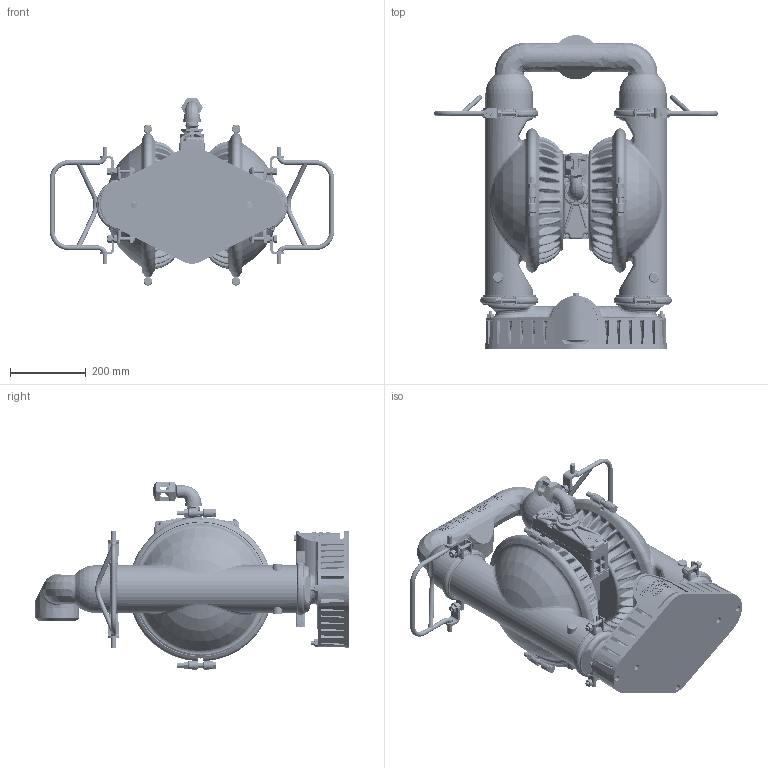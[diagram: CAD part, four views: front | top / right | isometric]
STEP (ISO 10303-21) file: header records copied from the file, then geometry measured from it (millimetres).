
FILE_DESCRIPTION((''),'2;1');
FILE_NAME('PS15_STALLION_AL_DC_C_SW0001','2015-07-16T',('nathan.hale'),(''),'PRO/ENGINEER BY PARAMETRIC TECHNOLOGY CORPORATION, 2013320','PRO/ENGINEER BY PARAMETRIC TECHNOLOGY CORPORATION, 2013320','');
FILE_SCHEMA(('CONFIG_CONTROL_DESIGN'));
Products named in the file (1): PS15_STALLION_AL_DC_C_SW0001
Bounding box: 750.82 x 827.96 x 494.42 mm (x, y, z)
Volume: 16442968.6 mm3; surface area: 3699361.4 mm2
Topology: 13 solids, 18 shells, 20489 faces, 54640 edges, 34817 vertices
Faces by surface type: plane 13087, bspline 3046, cylinder 1724, cone 1187, torus 867, sphere 357, extrusion 221
Entity records: 1439909 total; most frequent: CARTESIAN_POINT 959074, ORIENTED_EDGE 109140, DIRECTION 85238, EDGE_CURVE 54570, VECTOR 35952, LINE 35731, VERTEX_POINT 34817, AXIS2_PLACEMENT_3D 24643
